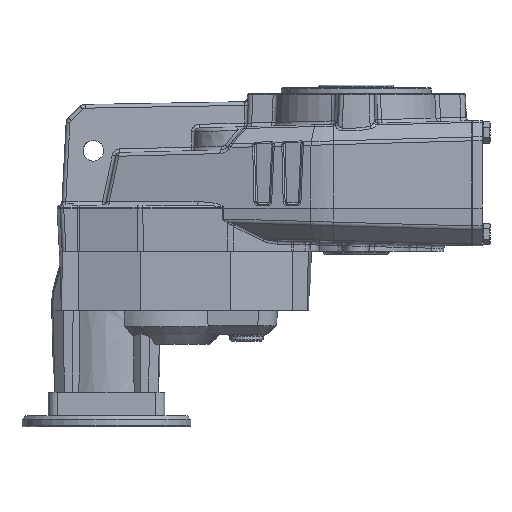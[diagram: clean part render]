
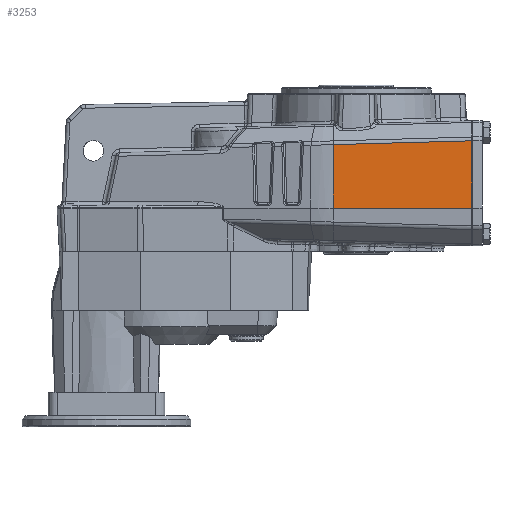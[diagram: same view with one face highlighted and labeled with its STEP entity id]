
A CAD part, left-side view. The second image highlights one B-rep face of the part: STEP entity #3253.
In plain terms, the highlighted planar face has unit normal (-0.998, 0.035, 0.044).
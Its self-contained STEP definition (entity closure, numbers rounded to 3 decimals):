
#3253 = ADVANCED_FACE( '', ( #6915 ), #6916, .T. );
#6915 = FACE_OUTER_BOUND( '', #16768, .T. );
#6916 = PLANE( '', #16769 );
#16768 = EDGE_LOOP( '', ( #26537, #26538, #26539, #26540 ) );
#16769 = AXIS2_PLACEMENT_3D( '', #26541, #26542, #26543 );
#26537 = ORIENTED_EDGE( '', *, *, #30760, .F. );
#26538 = ORIENTED_EDGE( '', *, *, #29596, .T. );
#26539 = ORIENTED_EDGE( '', *, *, #28796, .F. );
#26540 = ORIENTED_EDGE( '', *, *, #28301, .T. );
#26541 = CARTESIAN_POINT( '', ( -63.244, 102.834, -61. ) );
#26542 = DIRECTION( '', ( -0.998, 0.035, 0.044 ) );
#26543 = DIRECTION( '', ( -0.044, 0., -0.999 ) );
#28301 = EDGE_CURVE( '', #32383, #32384, #32385, .T. );
#28796 = EDGE_CURVE( '', #32383, #33223, #33224, .T. );
#29596 = EDGE_CURVE( '', #34137, #33223, #34495, .T. );
#30760 = EDGE_CURVE( '', #34137, #32384, #36093, .T. );
#32383 = VERTEX_POINT( '', #38681 );
#32384 = VERTEX_POINT( '', #38682 );
#32385 = LINE( '', #38683, #38684 );
#33223 = VERTEX_POINT( '', #40994 );
#33224 = LINE( '', #40995, #40996 );
#34137 = VERTEX_POINT( '', #42954 );
#34495 = LINE( '', #43956, #43957 );
#36093 = LINE( '', #48562, #48563 );
#38681 = CARTESIAN_POINT( '', ( -64.933, 12.176, -27.192 ) );
#38682 = CARTESIAN_POINT( '', ( -66.408, 12.228, -61. ) );
#38683 = CARTESIAN_POINT( '', ( -66.408, 12.228, -61. ) );
#38684 = VECTOR( '', #51855, 1000. );
#40994 = CARTESIAN_POINT( '', ( -67.417, -61.483, -25.175 ) );
#40995 = CARTESIAN_POINT( '', ( -61.848, 103.644, -29.697 ) );
#40996 = VECTOR( '', #52313, 1000. );
#42954 = CARTESIAN_POINT( '', ( -68.982, -61.483, -61. ) );
#43956 = CARTESIAN_POINT( '', ( -68.971, -61.483, -60.75 ) );
#43957 = VECTOR( '', #53068, 1000. );
#48562 = CARTESIAN_POINT( '', ( -63.244, 102.834, -61. ) );
#48563 = VECTOR( '', #53979, 1000. );
#51855 = DIRECTION( '', ( -0.044, 0.002, -0.999 ) );
#52313 = DIRECTION( '', ( -0.034, -0.999, 0.027 ) );
#53068 = DIRECTION( '', ( 0.044, 0., 0.999 ) );
#53979 = DIRECTION( '', ( 0.035, 0.999, 0. ) );
